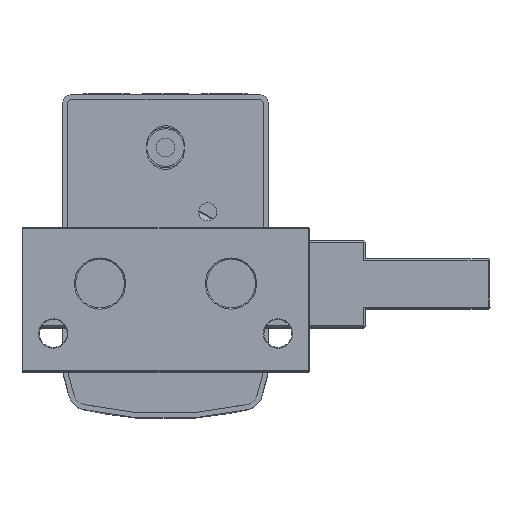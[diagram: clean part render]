
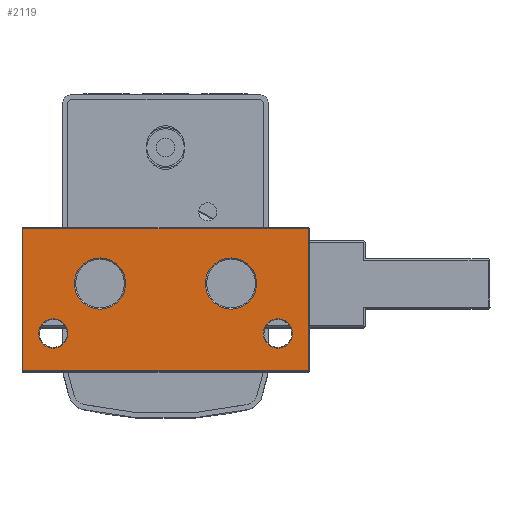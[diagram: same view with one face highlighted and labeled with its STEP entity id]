
A CAD part, top view. The second image highlights one B-rep face of the part: STEP entity #2119.
In plain terms, the highlighted planar face has unit normal (0, 0, 1).
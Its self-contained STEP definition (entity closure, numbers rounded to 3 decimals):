
#267 = AXIS2_PLACEMENT_3D ( 'NONE', #16906, #25036, #25089 ) ;
#340 = EDGE_CURVE ( 'NONE', #17462, #17216, #20369, .T. ) ;
#499 = VERTEX_POINT ( 'NONE', #8481 ) ;
#872 = FACE_BOUND ( 'NONE', #2632, .T. ) ;
#1022 = CARTESIAN_POINT ( 'NONE',  ( -22.9, 0., 120. ) ) ;
#1081 = CARTESIAN_POINT ( 'NONE',  ( -10.5, 14., 120. ) ) ;
#1304 = CIRCLE ( 'NONE', #22997, 4.1 ) ;
#1364 = CARTESIAN_POINT ( 'NONE',  ( 10.5, 14., 120. ) ) ;
#1673 = CARTESIAN_POINT ( 'NONE',  ( -22.9, 22.9, 120. ) ) ;
#1701 = AXIS2_PLACEMENT_3D ( 'NONE', #4700, #16414, #16450 ) ;
#1817 = VERTEX_POINT ( 'NONE', #21986 ) ;
#1951 = CARTESIAN_POINT ( 'NONE',  ( 14.6, 14., 120. ) ) ;
#2119 = ADVANCED_FACE ( 'NONE', ( #7217, #872, #2239, #18623, #12257 ), #14713, .F. ) ;
#2239 = FACE_BOUND ( 'NONE', #18742, .T. ) ;
#2632 = EDGE_LOOP ( 'NONE', ( #18336, #8810 ) ) ;
#2862 = ORIENTED_EDGE ( 'NONE', *, *, #14573, .T. ) ;
#3253 = DIRECTION ( 'NONE',  ( -1., 0., 0. ) ) ;
#3350 = CARTESIAN_POINT ( 'NONE',  ( 15.65, 6., 120. ) ) ;
#3539 = DIRECTION ( 'NONE',  ( -1., 0., 0. ) ) ;
#3553 = EDGE_CURVE ( 'NONE', #23707, #15925, #10546, .T. ) ;
#3591 = EDGE_CURVE ( 'NONE', #4528, #26655, #16261, .T. ) ;
#3713 = VERTEX_POINT ( 'NONE', #25890 ) ;
#4011 = EDGE_CURVE ( 'NONE', #499, #3713, #21221, .T. ) ;
#4109 = VERTEX_POINT ( 'NONE', #3350 ) ;
#4204 = CARTESIAN_POINT ( 'NONE',  ( -20.35, 6., 120. ) ) ;
#4528 = VERTEX_POINT ( 'NONE', #13953 ) ;
#4617 = CARTESIAN_POINT ( 'NONE',  ( 20.35, 6., 120. ) ) ;
#4700 = CARTESIAN_POINT ( 'NONE',  ( -10.5, 14., 120. ) ) ;
#4771 = CARTESIAN_POINT ( 'NONE',  ( 10.5, 14., 120. ) ) ;
#4858 = DIRECTION ( 'NONE',  ( 0., 0., -1. ) ) ;
#4888 = DIRECTION ( 'NONE',  ( -1., 0., 0. ) ) ;
#5271 = LINE ( 'NONE', #1022, #27250 ) ;
#5280 = AXIS2_PLACEMENT_3D ( 'NONE', #12707, #27559, #14862 ) ;
#7067 = LINE ( 'NONE', #22941, #16471 ) ;
#7217 = FACE_BOUND ( 'NONE', #24944, .T. ) ;
#7340 = AXIS2_PLACEMENT_3D ( 'NONE', #14517, #15950, #14047 ) ;
#8126 = DIRECTION ( 'NONE',  ( 1., 0., 0. ) ) ;
#8416 = DIRECTION ( 'NONE',  ( 0., 0., -1. ) ) ;
#8421 = CARTESIAN_POINT ( 'NONE',  ( -14.6, 14., 120. ) ) ;
#8481 = CARTESIAN_POINT ( 'NONE',  ( -22.9, 0.1, 120. ) ) ;
#8681 = CARTESIAN_POINT ( 'NONE',  ( 23., 0.1, 120. ) ) ;
#8810 = ORIENTED_EDGE ( 'NONE', *, *, #21025, .T. ) ;
#9282 = ORIENTED_EDGE ( 'NONE', *, *, #4011, .T. ) ;
#9315 = ORIENTED_EDGE ( 'NONE', *, *, #11452, .T. ) ;
#10318 = EDGE_LOOP ( 'NONE', ( #23586, #2862, #9282, #24741 ) ) ;
#10546 = CIRCLE ( 'NONE', #267, 2.35 ) ;
#10660 = ORIENTED_EDGE ( 'NONE', *, *, #22514, .T. ) ;
#11176 = ORIENTED_EDGE ( 'NONE', *, *, #3553, .T. ) ;
#11234 = CIRCLE ( 'NONE', #5280, 2.35 ) ;
#11452 = EDGE_CURVE ( 'NONE', #26789, #4109, #11234, .T. ) ;
#11782 = DIRECTION ( 'NONE',  ( 0., -1., 0. ) ) ;
#11980 = CIRCLE ( 'NONE', #15543, 4.1 ) ;
#12257 = FACE_OUTER_BOUND ( 'NONE', #10318, .T. ) ;
#12388 = CARTESIAN_POINT ( 'NONE',  ( -18., 6., 120. ) ) ;
#12537 = AXIS2_PLACEMENT_3D ( 'NONE', #4771, #4858, #4888 ) ;
#12707 = CARTESIAN_POINT ( 'NONE',  ( 18., 6., 120. ) ) ;
#13351 = EDGE_CURVE ( 'NONE', #17216, #17462, #1304, .T. ) ;
#13953 = CARTESIAN_POINT ( 'NONE',  ( -6.4, 14., 120. ) ) ;
#14047 = DIRECTION ( 'NONE',  ( -1., 0., 0. ) ) ;
#14517 = CARTESIAN_POINT ( 'NONE',  ( -23., 0., 120. ) ) ;
#14539 = DIRECTION ( 'NONE',  ( -1., 0., 0. ) ) ;
#14573 = EDGE_CURVE ( 'NONE', #25557, #499, #5271, .T. ) ;
#14713 = PLANE ( 'NONE',  #7340 ) ;
#14862 = DIRECTION ( 'NONE',  ( -1., 0., 0. ) ) ;
#15105 = ORIENTED_EDGE ( 'NONE', *, *, #340, .T. ) ;
#15543 = AXIS2_PLACEMENT_3D ( 'NONE', #1081, #16068, #3253 ) ;
#15925 = VERTEX_POINT ( 'NONE', #21227 ) ;
#15950 = DIRECTION ( 'NONE',  ( 0., 0., -1. ) ) ;
#16068 = DIRECTION ( 'NONE',  ( 0., 0., -1. ) ) ;
#16261 = CIRCLE ( 'NONE', #1701, 4.1 ) ;
#16358 = DIRECTION ( 'NONE',  ( 0., 0., -1. ) ) ;
#16414 = DIRECTION ( 'NONE',  ( 0., 0., -1. ) ) ;
#16450 = DIRECTION ( 'NONE',  ( -1., 0., 0. ) ) ;
#16471 = VECTOR ( 'NONE', #25041, 1000. ) ;
#16649 = AXIS2_PLACEMENT_3D ( 'NONE', #12388, #27248, #14539 ) ;
#16906 = CARTESIAN_POINT ( 'NONE',  ( -18., 6., 120. ) ) ;
#17216 = VERTEX_POINT ( 'NONE', #18259 ) ;
#17371 = LINE ( 'NONE', #21737, #22340 ) ;
#17462 = VERTEX_POINT ( 'NONE', #1951 ) ;
#17810 = EDGE_CURVE ( 'NONE', #3713, #1817, #7067, .T. ) ;
#18259 = CARTESIAN_POINT ( 'NONE',  ( 6.4, 14., 120. ) ) ;
#18336 = ORIENTED_EDGE ( 'NONE', *, *, #3591, .T. ) ;
#18623 = FACE_BOUND ( 'NONE', #20809, .T. ) ;
#18742 = EDGE_LOOP ( 'NONE', ( #10660, #11176 ) ) ;
#20369 = CIRCLE ( 'NONE', #12537, 4.1 ) ;
#20809 = EDGE_LOOP ( 'NONE', ( #9315, #23906 ) ) ;
#20818 = EDGE_CURVE ( 'NONE', #1817, #25557, #17371, .T. ) ;
#21025 = EDGE_CURVE ( 'NONE', #26655, #4528, #11980, .T. ) ;
#21221 = LINE ( 'NONE', #8681, #26160 ) ;
#21227 = CARTESIAN_POINT ( 'NONE',  ( -15.65, 6., 120. ) ) ;
#21240 = CARTESIAN_POINT ( 'NONE',  ( 18., 6., 120. ) ) ;
#21248 = CIRCLE ( 'NONE', #16649, 2.35 ) ;
#21592 = ORIENTED_EDGE ( 'NONE', *, *, #13351, .T. ) ;
#21737 = CARTESIAN_POINT ( 'NONE',  ( -23., 22.9, 120. ) ) ;
#21986 = CARTESIAN_POINT ( 'NONE',  ( 22.9, 22.9, 120. ) ) ;
#22340 = VECTOR ( 'NONE', #23863, 1000. ) ;
#22514 = EDGE_CURVE ( 'NONE', #15925, #23707, #21248, .T. ) ;
#22941 = CARTESIAN_POINT ( 'NONE',  ( 22.9, 23., 120. ) ) ;
#22997 = AXIS2_PLACEMENT_3D ( 'NONE', #1364, #16358, #3539 ) ;
#23348 = DIRECTION ( 'NONE',  ( -1., 0., 0. ) ) ;
#23586 = ORIENTED_EDGE ( 'NONE', *, *, #20818, .T. ) ;
#23707 = VERTEX_POINT ( 'NONE', #4204 ) ;
#23863 = DIRECTION ( 'NONE',  ( -1., 0., 0. ) ) ;
#23906 = ORIENTED_EDGE ( 'NONE', *, *, #25082, .T. ) ;
#24530 = AXIS2_PLACEMENT_3D ( 'NONE', #21240, #8416, #23348 ) ;
#24741 = ORIENTED_EDGE ( 'NONE', *, *, #17810, .T. ) ;
#24944 = EDGE_LOOP ( 'NONE', ( #15105, #21592 ) ) ;
#25036 = DIRECTION ( 'NONE',  ( 0., 0., -1. ) ) ;
#25041 = DIRECTION ( 'NONE',  ( 0., 1., 0. ) ) ;
#25082 = EDGE_CURVE ( 'NONE', #4109, #26789, #26372, .T. ) ;
#25089 = DIRECTION ( 'NONE',  ( -1., 0., 0. ) ) ;
#25557 = VERTEX_POINT ( 'NONE', #1673 ) ;
#25890 = CARTESIAN_POINT ( 'NONE',  ( 22.9, 0.1, 120. ) ) ;
#26160 = VECTOR ( 'NONE', #8126, 1000. ) ;
#26372 = CIRCLE ( 'NONE', #24530, 2.35 ) ;
#26655 = VERTEX_POINT ( 'NONE', #8421 ) ;
#26789 = VERTEX_POINT ( 'NONE', #4617 ) ;
#27248 = DIRECTION ( 'NONE',  ( 0., 0., -1. ) ) ;
#27250 = VECTOR ( 'NONE', #11782, 1000. ) ;
#27559 = DIRECTION ( 'NONE',  ( 0., 0., -1. ) ) ;
